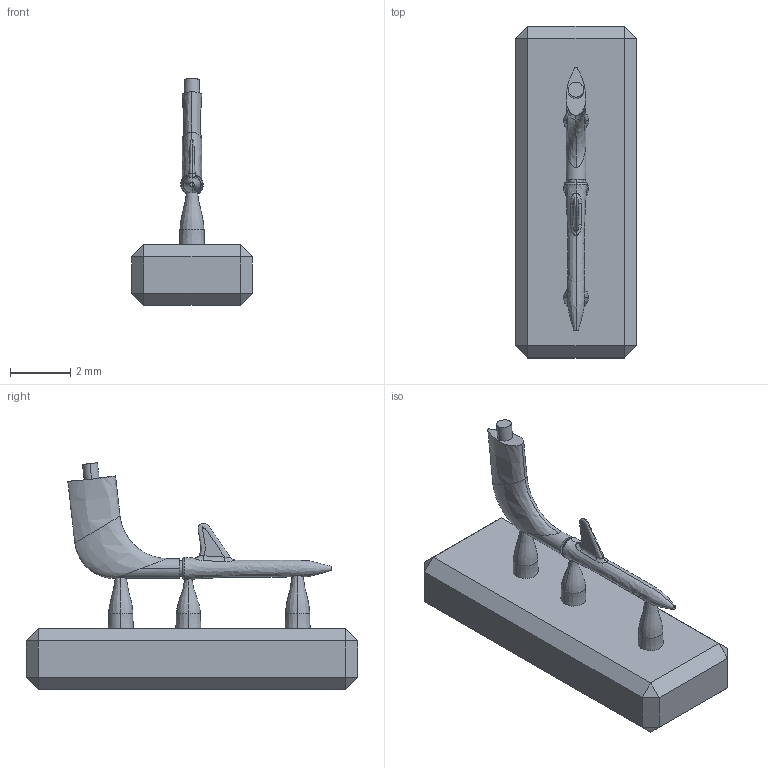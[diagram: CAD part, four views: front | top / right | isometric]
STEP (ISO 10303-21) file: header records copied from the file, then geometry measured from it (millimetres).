
FILE_DESCRIPTION(/* description */ (''),/* implementation_level */ '2;1');
FILE_NAME(/* name */ 'F6F-XP~1',/* time_stamp */ '2021-03-18T11:04:23+01:00',/* author */ (''),/* organization */ (''),/* preprocessor_version */ 'ST-DEVELOPER v16.5',/* originating_system */ '',/* authorisation */ '');
FILE_SCHEMA (('CONFIG_CONTROL_DESIGN'));
Length unit declared in the file: millimetre
Products named in the file (1): Document
Bounding box: 4 x 11 x 7.51 mm (x, y, z)
Volume: 89.4 mm3; surface area: 168.3 mm2
Topology: 1 solids, 1 shells, 71 faces, 167 edges, 90 vertices
Faces by surface type: bspline 42, plane 22, cylinder 7
Entity records: 3416 total; most frequent: CARTESIAN_POINT 2360, ORIENTED_EDGE 314, EDGE_CURVE 157, VERTEX_POINT 90, B_SPLINE_CURVE_WITH_KNOTS 79, EDGE_LOOP 77, ADVANCED_FACE 71, FACE_OUTER_BOUND 71
